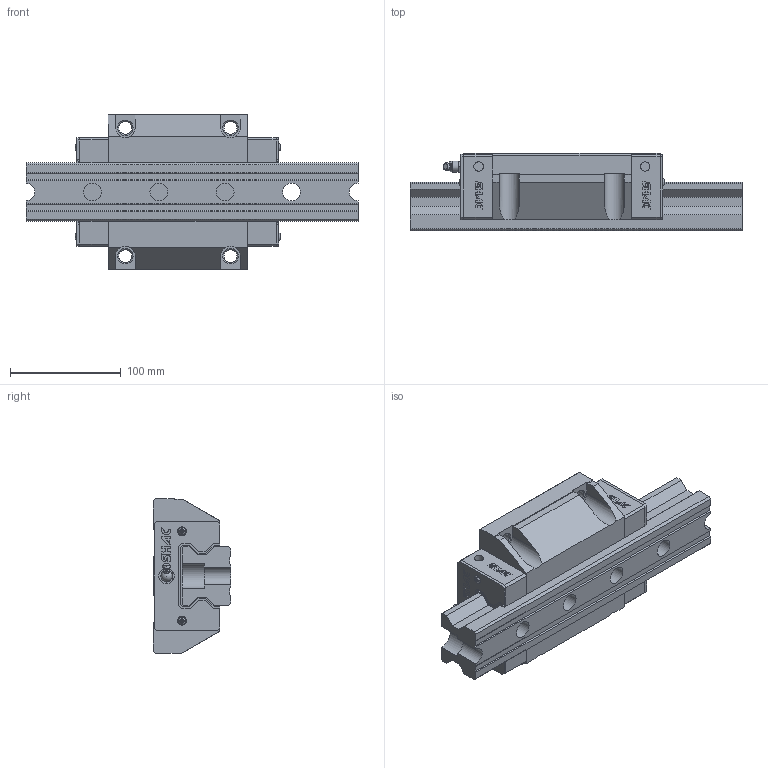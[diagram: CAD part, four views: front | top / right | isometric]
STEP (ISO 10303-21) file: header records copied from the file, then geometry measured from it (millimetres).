
FILE_DESCRIPTION( ( 'STEP AP214' ), '1' );
FILE_NAME( 'F:/品牌/SHAC 台湾鼎翰传动科技有限公司/3D滑块/GRW55CC1R300Z0CRC-0_0_1_1__.stp', '2025-04-21T22:53:35', ( 'License CC BY-ND 4.0' ), ( 'CADENAS' ), ' ', 'PARTsolutions', ' ' );
FILE_SCHEMA( ( 'AUTOMOTIVE_DESIGN { 1 0 10303 214 1 1 1 1 }' ) );
Length unit declared in the file: millimetre
Products named in the file (8): GRW55CC1R300Z0CRC-0/0(1_1_); _GR55R300-0/0(1)_RAIL; _GRW55CC_slider; _GRW55_C; _GRW55_P; _GH55_BOLT; _GR55_SCREW; _GH55-_G
Assembly tree (12 placements, depth 2):
  GRW55CC1R300Z0CRC-0/0(1_1_)
    _GR55R300-0/0(1)_RAIL
    _GRW55CC_slider
    _GRW55_C  x2
    _GRW55_P  x2
    _GH55_BOLT
    _GR55_SCREW  x4
    _GH55-_G
Bounding box: 300 x 70 x 140 mm (x, y, z)
Volume: 1514778.1 mm3; surface area: 211671.9 mm2
Topology: 12 solids, 12 shells, 785 faces, 2096 edges, 1383 vertices
Faces by surface type: plane 657, cylinder 91, cone 30, bspline 5, torus 1, sphere 1
Full cylindrical faces by diameter (mm): 4.3 x4, 4.5 x1, 7 x4, 8 x4, 8.5 x4, 8.8 x2, 10 x4, 10.5 x2, 11.835 x6, 14 x2, 16 x4, 23 x4
Entity records: 18910 total; most frequent: CARTESIAN_POINT 2866, ORIENTED_EDGE 2466, DIRECTION 2364, EDGE_CURVE 1233, LINE 1016, VECTOR 1016, VERTEX_POINT 840, AXIS2_PLACEMENT_3D 674
